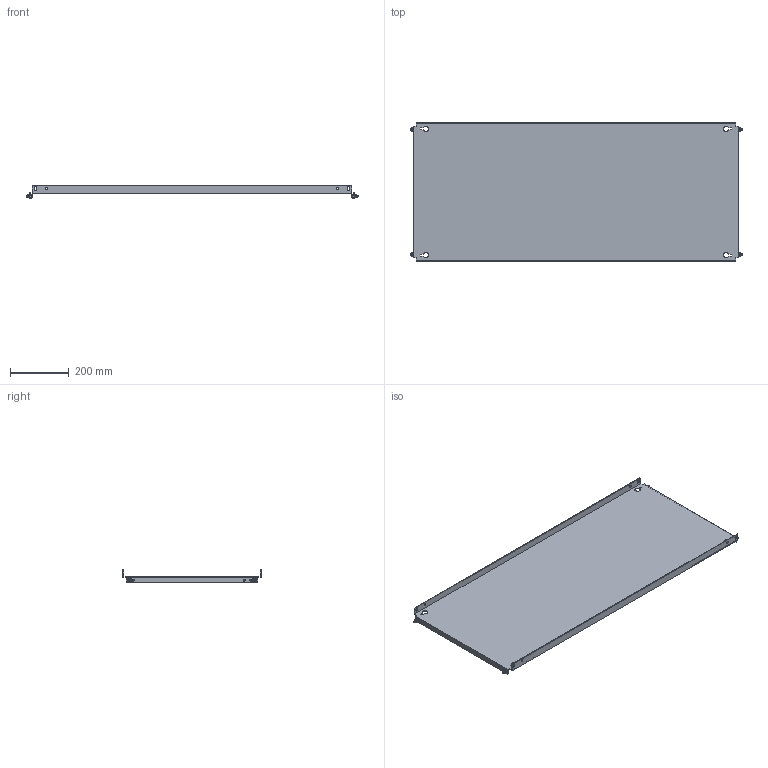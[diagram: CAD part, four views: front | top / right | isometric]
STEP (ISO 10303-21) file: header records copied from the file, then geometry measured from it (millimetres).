
FILE_DESCRIPTION(('Open CASCADE Model'),'2;1');
FILE_NAME('Open CASCADE Shape Model','2025-02-24T17:07:11',('Author'),( 'Open CASCADE'),'Open CASCADE STEP processor 7.8','Open CASCADE 7.8' ,'Unknown');
FILE_SCHEMA(('AUTOMOTIVE_DESIGN { 1 0 10303 214 1 1 1 1 }'));
Length unit declared in the file: millimetre
Products named in the file (4): Compound1; Solid1; Solid2; Solid3
Assembly tree (9 placements, depth 2):
  Compound1
    Solid1
    Solid2  x4
    Solid3  x4
Bounding box: 1127 x 469 x 42.59 mm (x, y, z)
Volume: 1453594.9 mm3; surface area: 1173370 mm2
Topology: 9 solids, 9 shells, 308 faces, 753 edges, 467 vertices
Faces by surface type: plane 150, cone 68, bspline 48, cylinder 30, torus 12
Full cylindrical faces by diameter (mm): 5 x4, 6 x8, 7 x14
Entity records: 4930 total; most frequent: CARTESIAN_POINT 1377, ORIENTED_EDGE 756, DIRECTION 642, EDGE_CURVE 378, VERTEX_POINT 245, LINE 216, VECTOR 216, AXIS2_PLACEMENT_3D 213
